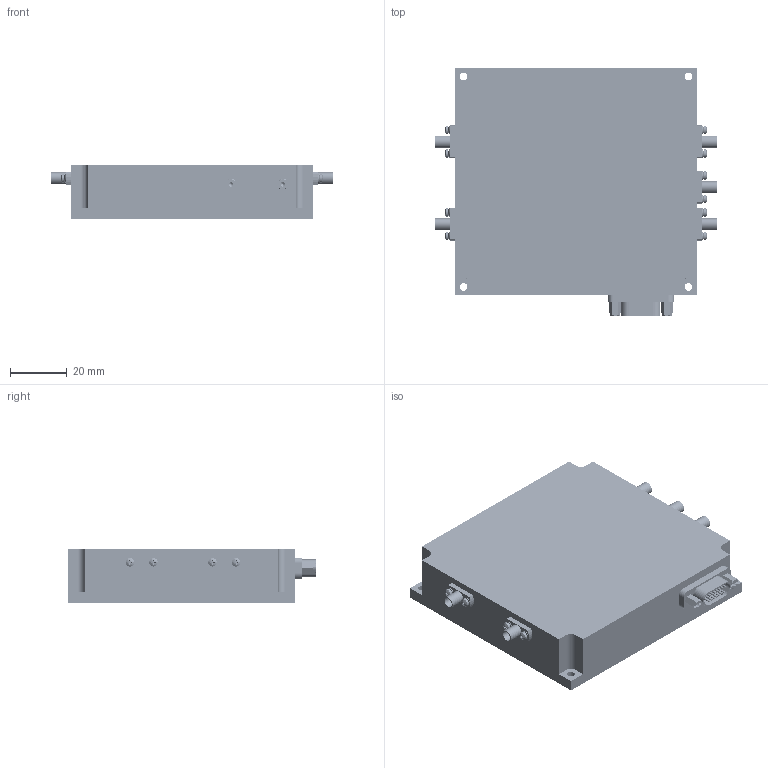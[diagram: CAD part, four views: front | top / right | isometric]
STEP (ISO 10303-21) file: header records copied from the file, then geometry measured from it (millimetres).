
FILE_DESCRIPTION (( 'STEP AP203' ), '1' );
FILE_NAME ('蚾饜极1.STEP', '2026-09-01T08:42:50', ( 'Windows User' ), ( 'P R C' ), 'SwSTEP 2.0', 'SolidWorks 2013', '' );
FILE_SCHEMA (( 'CONFIG_CONTROL_DESIGN' ));
Length unit declared in the file: millimetre
Products named in the file (8): SMP-JFD2; 麥芛蹟隊M1.6X4; 褲极; NY251638; 郪磁蹟隊M1.6X4; 裔啣; 蚾饜极1; J30J-15ZK
Assembly tree (43 placements, depth 2):
  蚾饜极1
    褲极
    裔啣
    J30J-15ZK
    NY251638  x5
    SMP-JFD2  x5
    郪磁蹟隊M1.6X4  x10
    麥芛蹟隊M1.6X4  x20
Bounding box: 99 x 87.31 x 19 mm (x, y, z)
Volume: 57638.5 mm3; surface area: 42579.3 mm2
Topology: 65 solids, 65 shells, 2767 faces, 7182 edges, 4639 vertices
Faces by surface type: cylinder 1664, plane 749, cone 164, bspline 110, torus 80
Entity records: 28059 total; most frequent: CARTESIAN_POINT 8282, DIRECTION 3938, ORIENTED_EDGE 3598, EDGE_CURVE 1799, AXIS2_PLACEMENT_3D 1554, VERTEX_POINT 1164, EDGE_LOOP 935, VECTOR 830
